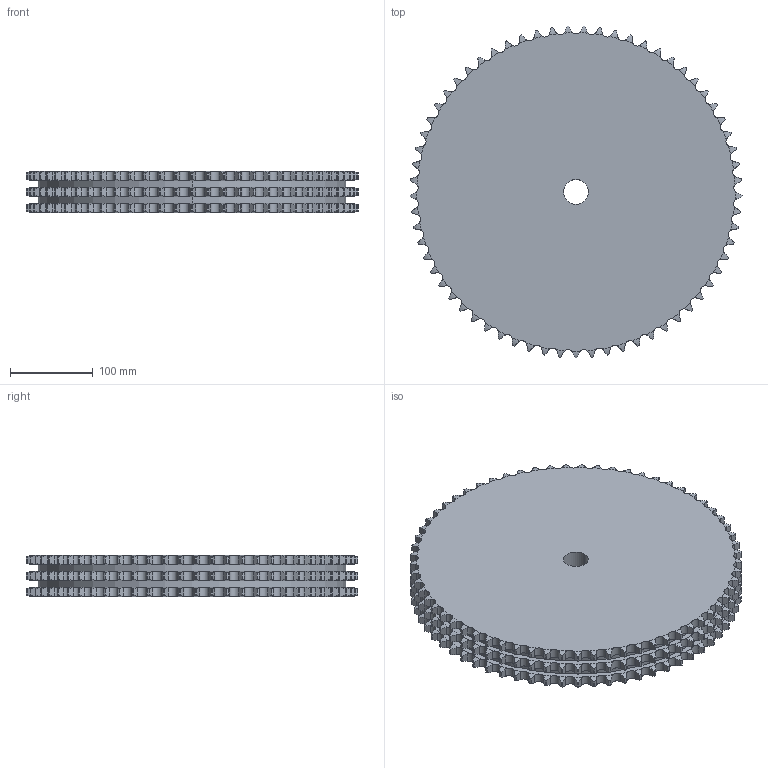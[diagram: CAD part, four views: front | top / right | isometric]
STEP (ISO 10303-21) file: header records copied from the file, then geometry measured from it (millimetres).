
FILE_DESCRIPTION((''),'2;1');
FILE_NAME('500-403-0065_PRT','2021-02-12T',('Brieden'),('Brieden'),'PRO/ENGINEER BY PARAMETRIC TECHNOLOGY CORPORATION, 2010160','PRO/ENGINEER BY PARAMETRIC TECHNOLOGY CORPORATION, 2010160','');
FILE_SCHEMA(('AUTOMOTIVE_DESIGN { 1 0 10303 214 1 1 1 1 }'));
Length unit declared in the file: millimetre
Products named in the file (1): 500-403-0065_PRT
Bounding box: 401.68 x 401.56 x 49.8 mm (x, y, z)
Volume: 5722750.2 mm3; surface area: 361092.7 mm2
Topology: 1 solids, 1 shells, 1182 faces, 3528 edges, 2352 vertices
Faces by surface type: cylinder 786, torus 390, plane 6
Entity records: 58440 total; most frequent: CARTESIAN_POINT 17913, ORIENTED_EDGE 7056, DIRECTION 5514, PRESENTATION_STYLE_ASSIGNMENT 3529, STYLED_ITEM 3529, CURVE_STYLE 3528, EDGE_CURVE 3528, AXIS2_PLACEMENT_3D 2364
